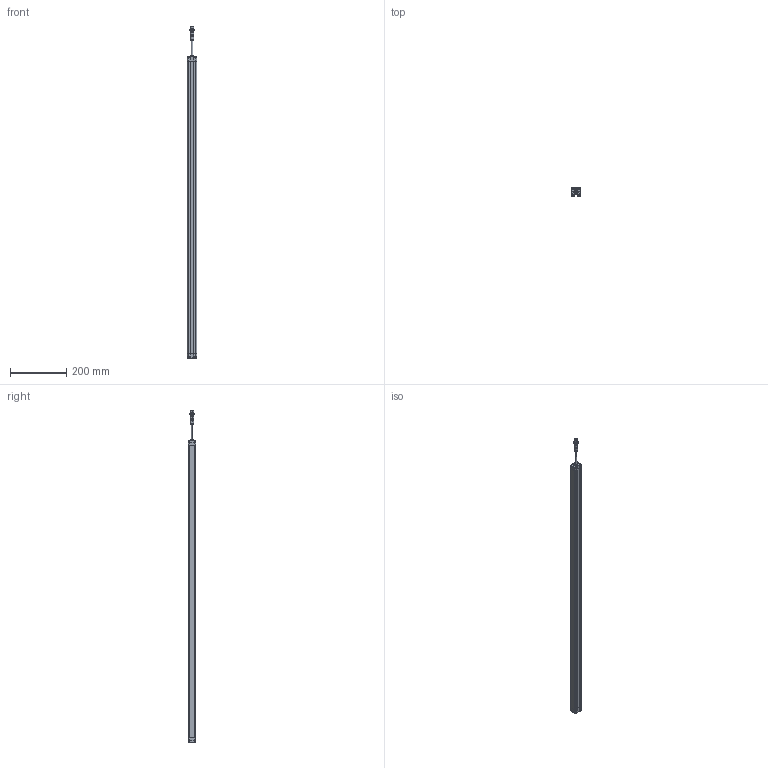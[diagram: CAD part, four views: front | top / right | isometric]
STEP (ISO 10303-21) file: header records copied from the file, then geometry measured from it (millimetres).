
FILE_DESCRIPTION((''),'2;1');
FILE_NAME('SMT1-CGQ_ASM','2025-08-08T08:37:19',('Administrator'),(''),'CREO PARAMETRIC BY PTC INC, 2016510','CREO PARAMETRIC BY PTC INC, 2016510','');
FILE_SCHEMA(('CONFIG_CONTROL_DESIGN'));
Length unit declared in the file: millimetre
Products named in the file (7): SMT1-XINGCAI-V1; SMT1-SDG-V1; SMT1-XDG-V1; M12-CHATOU; ST3X18; CT4-LVGUANGBAN; SMT1-CGQ_ASM
Assembly tree (13 placements, depth 2):
  SMT1-CGQ_ASM
    SMT1-XINGCAI-V1
    SMT1-SDG-V1
    SMT1-XDG-V1
    M12-CHATOU
    ST3X18  x8
    CT4-LVGUANGBAN
Bounding box: 33 x 28.02 x 1179.5 mm (x, y, z)
Volume: 829369.2 mm3; surface area: 267309.4 mm2
Topology: 13 solids, 13 shells, 712 faces, 1868 edges, 1200 vertices
Faces by surface type: plane 382, cylinder 184, extrusion 86, sphere 32, cone 20, bspline 8
Entity records: 18128 total; most frequent: CARTESIAN_POINT 4347, ORIENTED_EDGE 2916, DIRECTION 2580, EDGE_CURVE 1458, VECTOR 1036, VERTEX_POINT 955, LINE 950, AXIS2_PLACEMENT_3D 772
